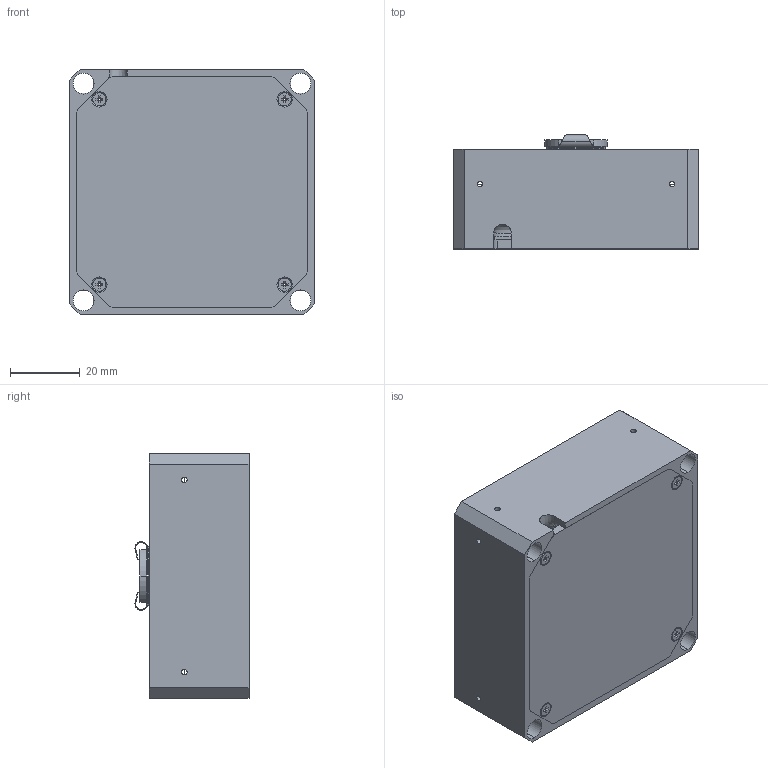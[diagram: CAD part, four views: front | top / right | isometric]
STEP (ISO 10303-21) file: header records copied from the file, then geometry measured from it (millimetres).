
FILE_DESCRIPTION (( 'STEP AP214' ), '1' );
FILE_NAME ('NSPM.52.00.000.v3ﾑﾁ - ﾁ靏隆 瑙褞.STEP', '2014-03-28T11:17:00', ( '' ), ( '' ), 'SwSTEP 2.0', 'SolidWorks 2013', '' );
FILE_SCHEMA (( 'AUTOMOTIVE_DESIGN' ));
Length unit declared in the file: millimetre
Products named in the file (1): NSPM.52.00.000.v3ﾑﾁ - ﾁ靏隆 瑙褞
Bounding box: 70 x 32.6 x 70 mm (x, y, z)
Surface area: 28606.5 mm2 (no closed solid volume)
Topology: 0 solids, 26 shells, 313 faces, 1282 edges, 985 vertices
Faces by surface type: plane 170, cylinder 91, cone 45, bspline 7
Entity records: 18229 total; most frequent: CARTESIAN_POINT 4375, DIRECTION 2158, ORIENTED_EDGE 1860, EDGE_CURVE 1282, VERTEX_POINT 985, AXIS2_PLACEMENT_3D 720, VECTOR 718, LINE 718
